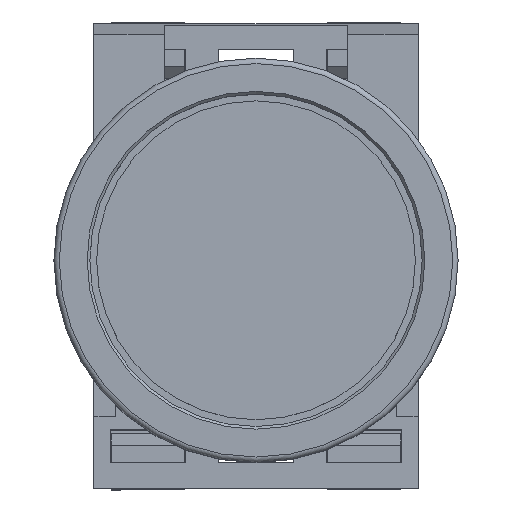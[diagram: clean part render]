
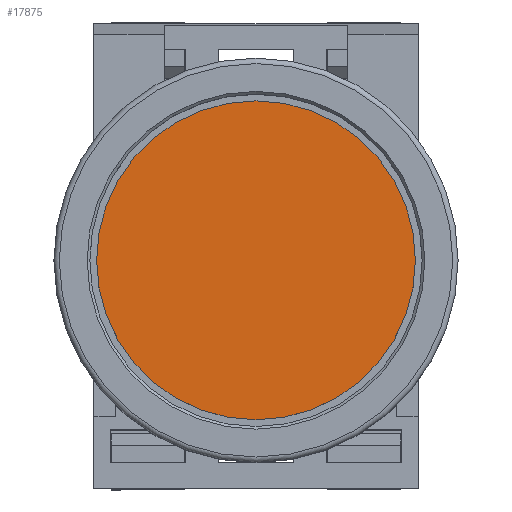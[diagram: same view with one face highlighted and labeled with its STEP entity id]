
A CAD part, top view. The second image highlights one B-rep face of the part: STEP entity #17875.
In plain terms, the highlighted planar face has unit normal (0, 0, 1).
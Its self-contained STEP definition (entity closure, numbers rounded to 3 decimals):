
#17859=CARTESIAN_POINT('',(7.625,21.,62.3));
#17860=DIRECTION('',(0.0,0.0,1.0));
#17861=DIRECTION('',(1.0,0.0,0.0));
#17862=AXIS2_PLACEMENT_3D('',#17859,#17860,#17861);
#17863=PLANE('',#17862);
#17864=CARTESIAN_POINT('',(0.25,21.,62.3));
#17865=VERTEX_POINT('',#17864);
#17866=CARTESIAN_POINT('',(15.0,21.,62.3));
#17867=DIRECTION('',(0.0,0.0,-1.0));
#17868=DIRECTION('',(-1.0,0.0,0.0));
#17869=AXIS2_PLACEMENT_3D('',#17866,#17867,#17868);
#17870=CIRCLE('',#17869,14.75);
#17871=EDGE_CURVE('',#17865,#17865,#17870,.T.);
#17872=ORIENTED_EDGE('',*,*,#17871,.F.);
#17873=EDGE_LOOP('',(#17872));
#17874=FACE_OUTER_BOUND('',#17873,.T.);
#17875=ADVANCED_FACE('',(#17874),#17863,.T.);
